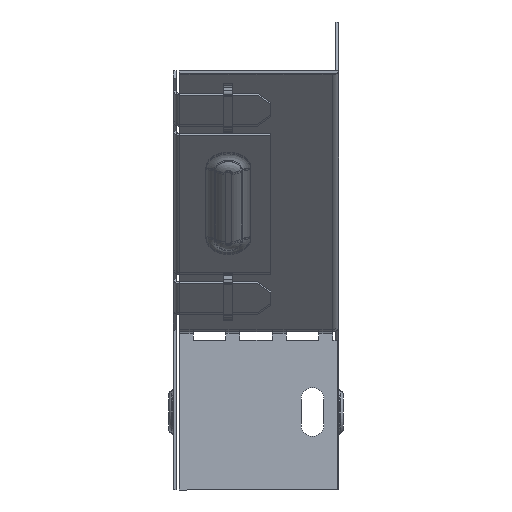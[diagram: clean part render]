
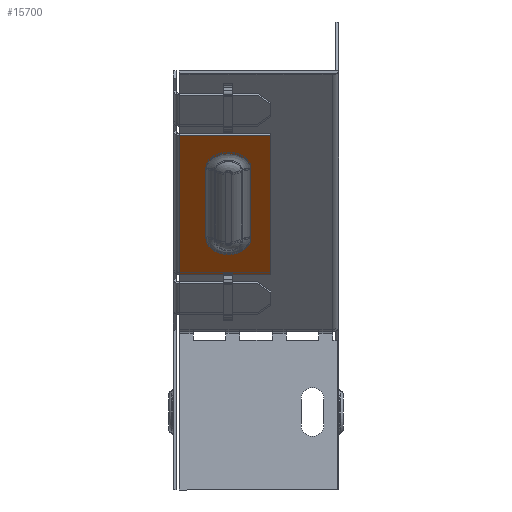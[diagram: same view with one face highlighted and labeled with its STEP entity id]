
A CAD part, left-side view. The second image highlights one B-rep face of the part: STEP entity #15700.
In plain terms, the highlighted planar face has unit normal (-0.707, 0, -0.707).
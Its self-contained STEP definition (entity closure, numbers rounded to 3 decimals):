
#277 = AXIS2_PLACEMENT_3D ( 'NONE', #3375, #4892, #16507 ) ;
#380 = EDGE_CURVE ( 'NONE', #1593, #6875, #6616, .T. ) ;
#890 = VECTOR ( 'NONE', #7330, 1000. ) ;
#1073 = ORIENTED_EDGE ( 'NONE', *, *, #13171, .T. ) ;
#1123 = CARTESIAN_POINT ( 'NONE',  ( -90.837, 50., -105.841 ) ) ;
#1528 = EDGE_CURVE ( 'NONE', #6875, #14289, #12024, .T. ) ;
#1593 = VERTEX_POINT ( 'NONE', #17064 ) ;
#1630 = DIRECTION ( 'NONE',  ( 0.707, 0., 0.707 ) ) ;
#1686 = DIRECTION ( 'NONE',  ( 0.5, -0.707, -0.5 ) ) ;
#1798 = DIRECTION ( 'NONE',  ( 0.707, 0., -0.707 ) ) ;
#2645 = DIRECTION ( 'NONE',  ( 0., 1., 0. ) ) ;
#2695 = DIRECTION ( 'NONE',  ( -0.707, 0., 0.707 ) ) ;
#3199 = VECTOR ( 'NONE', #4169, 1000. ) ;
#3375 = CARTESIAN_POINT ( 'NONE',  ( -151.206, 33.1, -45.472 ) ) ;
#3988 = EDGE_LOOP ( 'NONE', ( #6431, #1073, #9470, #6903 ) ) ;
#4169 = DIRECTION ( 'NONE',  ( 0., -1., 0. ) ) ;
#4892 = DIRECTION ( 'NONE',  ( 0.707, 0., 0.707 ) ) ;
#5095 = CARTESIAN_POINT ( 'NONE',  ( -161.823, 20., -34.855 ) ) ;
#5392 = LINE ( 'NONE', #10000, #16620 ) ;
#6396 = VECTOR ( 'NONE', #2695, 1000. ) ;
#6431 = ORIENTED_EDGE ( 'NONE', *, *, #10778, .F. ) ;
#6616 = LINE ( 'NONE', #17978, #12796 ) ;
#6648 = DIRECTION ( 'NONE',  ( -0.707, 0., 0.707 ) ) ;
#6653 = EDGE_LOOP ( 'NONE', ( #15696, #15112, #11162, #10776 ) ) ;
#6875 = VERTEX_POINT ( 'NONE', #15606 ) ;
#6903 = ORIENTED_EDGE ( 'NONE', *, *, #16051, .T. ) ;
#7330 = DIRECTION ( 'NONE',  ( -0.707, 0., 0.707 ) ) ;
#7448 = AXIS2_PLACEMENT_3D ( 'NONE', #1123, #10633, #18466 ) ;
#7864 = EDGE_CURVE ( 'NONE', #18023, #14575, #15359, .T. ) ;
#8278 = VERTEX_POINT ( 'NONE', #13366 ) ;
#8791 = CARTESIAN_POINT ( 'NONE',  ( -119.022, 20., -77.656 ) ) ;
#9002 = CARTESIAN_POINT ( 'NONE',  ( -129.993, 33.1, -66.685 ) ) ;
#9470 = ORIENTED_EDGE ( 'NONE', *, *, #7864, .T. ) ;
#9837 = VERTEX_POINT ( 'NONE', #14997 ) ;
#9968 = PLANE ( 'NONE',  #7448 ) ;
#10000 = CARTESIAN_POINT ( 'NONE',  ( -161.823, 20., -34.855 ) ) ;
#10603 = VERTEX_POINT ( 'NONE', #15662 ) ;
#10633 = DIRECTION ( 'NONE',  ( 0.707, 0., 0.707 ) ) ;
#10733 = CARTESIAN_POINT ( 'NONE',  ( -119.022, 20., -77.656 ) ) ;
#10776 = ORIENTED_EDGE ( 'NONE', *, *, #14129, .T. ) ;
#10778 = EDGE_CURVE ( 'NONE', #10603, #9837, #14227, .T. ) ;
#11162 = ORIENTED_EDGE ( 'NONE', *, *, #11918, .T. ) ;
#11918 = EDGE_CURVE ( 'NONE', #14289, #8278, #15803, .T. ) ;
#12024 = CIRCLE ( 'NONE', #17493, 6.917 ) ;
#12796 = VECTOR ( 'NONE', #1798, 1000. ) ;
#13171 = EDGE_CURVE ( 'NONE', #10603, #18023, #18394, .T. ) ;
#13366 = CARTESIAN_POINT ( 'NONE',  ( -151.206, 40.017, -45.472 ) ) ;
#13982 = VECTOR ( 'NONE', #6648, 1000. ) ;
#14129 = EDGE_CURVE ( 'NONE', #8278, #1593, #18660, .T. ) ;
#14227 = LINE ( 'NONE', #18966, #890 ) ;
#14289 = VERTEX_POINT ( 'NONE', #18194 ) ;
#14572 = FACE_OUTER_BOUND ( 'NONE', #3988, .T. ) ;
#14575 = VERTEX_POINT ( 'NONE', #5095 ) ;
#14997 = CARTESIAN_POINT ( 'NONE',  ( -161.823, 48.2, -34.855 ) ) ;
#15112 = ORIENTED_EDGE ( 'NONE', *, *, #1528, .T. ) ;
#15178 = CARTESIAN_POINT ( 'NONE',  ( -90.837, 20., -105.841 ) ) ;
#15359 = LINE ( 'NONE', #15178, #13982 ) ;
#15606 = CARTESIAN_POINT ( 'NONE',  ( -129.993, 26.183, -66.685 ) ) ;
#15662 = CARTESIAN_POINT ( 'NONE',  ( -119.022, 48.2, -77.656 ) ) ;
#15696 = ORIENTED_EDGE ( 'NONE', *, *, #380, .T. ) ;
#15700 = ADVANCED_FACE ( 'NONE', ( #18962, #14572 ), #9968, .F. ) ;
#15803 = LINE ( 'NONE', #19034, #6396 ) ;
#16051 = EDGE_CURVE ( 'NONE', #14575, #9837, #5392, .T. ) ;
#16507 = DIRECTION ( 'NONE',  ( 0.5, -0.707, -0.5 ) ) ;
#16620 = VECTOR ( 'NONE', #2645, 1000. ) ;
#17064 = CARTESIAN_POINT ( 'NONE',  ( -151.206, 26.183, -45.472 ) ) ;
#17493 = AXIS2_PLACEMENT_3D ( 'NONE', #9002, #1630, #1686 ) ;
#17978 = CARTESIAN_POINT ( 'NONE',  ( -129.993, 26.183, -66.685 ) ) ;
#18023 = VERTEX_POINT ( 'NONE', #10733 ) ;
#18194 = CARTESIAN_POINT ( 'NONE',  ( -129.993, 40.017, -66.685 ) ) ;
#18394 = LINE ( 'NONE', #8791, #3199 ) ;
#18466 = DIRECTION ( 'NONE',  ( 0.707, 0., -0.707 ) ) ;
#18660 = CIRCLE ( 'NONE', #277, 6.917 ) ;
#18962 = FACE_BOUND ( 'NONE', #6653, .T. ) ;
#18966 = CARTESIAN_POINT ( 'NONE',  ( -178.087, 48.2, -18.591 ) ) ;
#19034 = CARTESIAN_POINT ( 'NONE',  ( -129.993, 40.017, -66.685 ) ) ;
